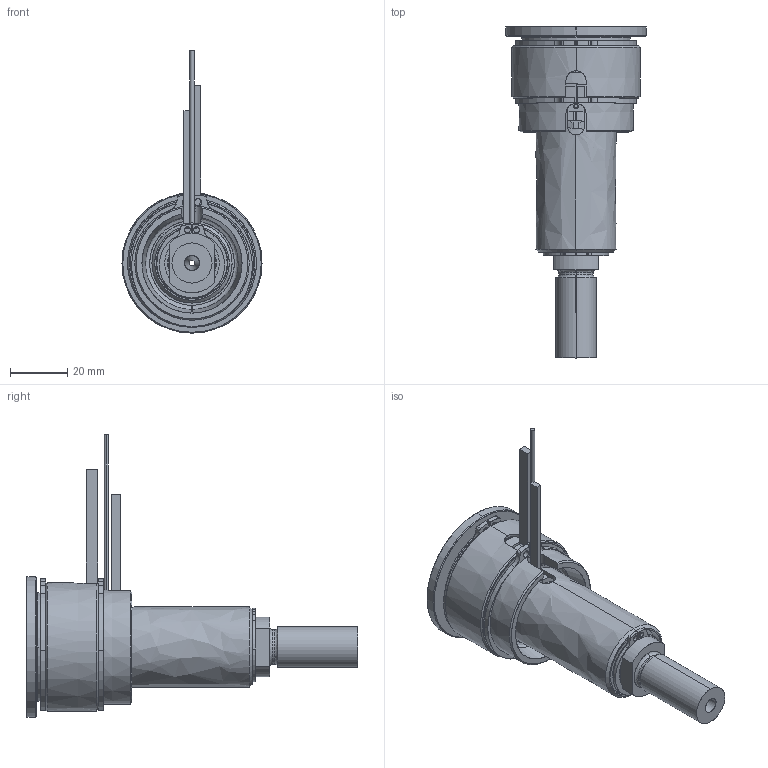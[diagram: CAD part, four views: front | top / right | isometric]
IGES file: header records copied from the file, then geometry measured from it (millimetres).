
Start section: SolidWorks IGES file using analytic representation for surfaces
Global section: file name: C:\Documents and Settings\ws-20\Desktop\TEM\UGBE4501-S-A-P-3 [Ød-2.0 P-25 ØC-09].IGS; native system: SolidWorks 2012; preprocessor: SolidWorks 2012; author: ws-20; date: 120412.152853; units: millimetre
Bounding box: 49 x 116 x 98.65 mm (x, y, z)
Surface area: 41047.1 mm2 (no closed solid volume)
Topology: 0 solids, 0 shells, 168 faces, 3225 edges, 3225 vertices
Faces by surface type: revolution 106, bspline 62
